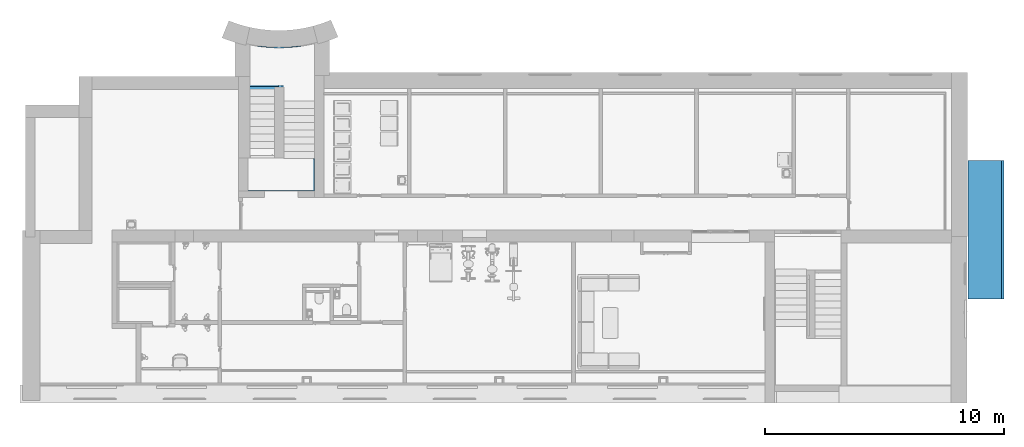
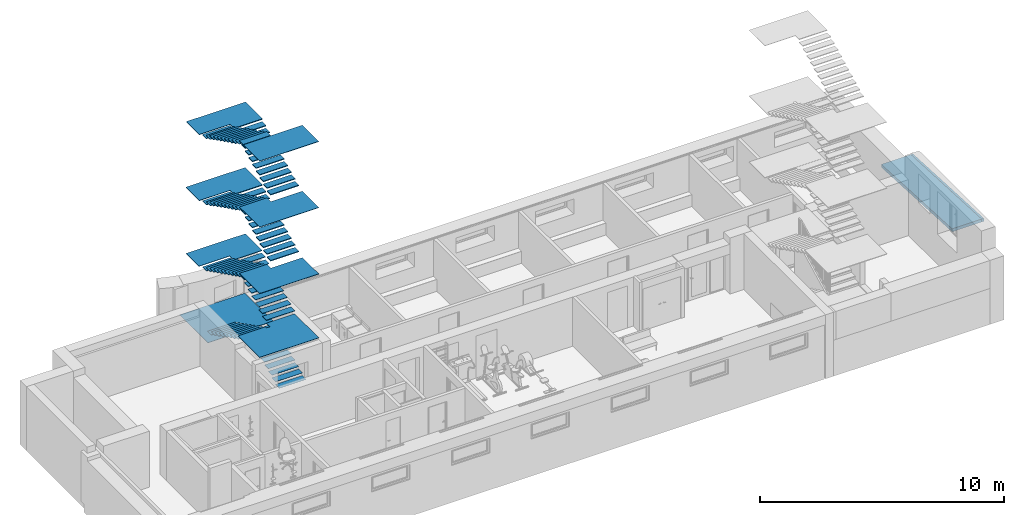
# One storey, part 8 of 23: 2 ramp flights, 1 stair, 3 elements without a shape of their own.
"""IFC2X3 building model written with IfcOpenShell, lengths in millimetres."""

from ifc_helpers import new_model, entity, si_unit, converted_unit, derived_unit, direction, frame, frame_2d, origin, origin_2d_with_axis, place, context, subcontext, project, spatial, polyline, rectangle, outline, extrude, element, aggregate, save


model = new_model("IFC2X3")

# Units and contexts
model_context = context("Model", 3, precision=0.01, world=origin(), true_north=direction((6.12303176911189e-17, 1.0)))
body_context = subcontext(model_context, "Body", "Model", "MODEL_VIEW")
ifc_project = project(units=[si_unit("LENGTHUNIT", "METRE", prefix="MILLI"), si_unit("AREAUNIT", "SQUARE_METRE"), si_unit("VOLUMEUNIT", "CUBIC_METRE"), converted_unit("PLANEANGLEUNIT", "DEGREE", entity("IfcRatioMeasure", 0.0174532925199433), si_unit("PLANEANGLEUNIT", "RADIAN"), dimensions=[0, 0, 0, 0, 0, 0, 0]), si_unit("MASSUNIT", "GRAM", prefix="KILO"), derived_unit("MASSDENSITYUNIT", [(si_unit("MASSUNIT", "GRAM", prefix="KILO"), 1), (si_unit("LENGTHUNIT", "METRE"), -3)]), si_unit("TIMEUNIT", "SECOND"), si_unit("FREQUENCYUNIT", "HERTZ"), si_unit("THERMODYNAMICTEMPERATUREUNIT", "DEGREE_CELSIUS"), derived_unit("THERMALTRANSMITTANCEUNIT", [(si_unit("MASSUNIT", "GRAM", prefix="KILO"), 1), (si_unit("THERMODYNAMICTEMPERATUREUNIT", "KELVIN"), -1), (si_unit("TIMEUNIT", "SECOND"), -3)]), derived_unit("VOLUMETRICFLOWRATEUNIT", [(si_unit("LENGTHUNIT", "METRE"), 3), (si_unit("TIMEUNIT", "SECOND"), -1)]), si_unit("ELECTRICCURRENTUNIT", "AMPERE"), si_unit("ELECTRICVOLTAGEUNIT", "VOLT"), si_unit("POWERUNIT", "WATT"), si_unit("FORCEUNIT", "NEWTON", prefix="KILO"), si_unit("ILLUMINANCEUNIT", "LUX"), si_unit("LUMINOUSFLUXUNIT", "LUMEN"), si_unit("LUMINOUSINTENSITYUNIT", "CANDELA"), derived_unit("USERDEFINED", [(si_unit("MASSUNIT", "GRAM", prefix="KILO"), -1), (si_unit("LENGTHUNIT", "METRE"), -2), (si_unit("TIMEUNIT", "SECOND"), 3), (si_unit("LUMINOUSFLUXUNIT", "LUMEN"), 1)]), derived_unit("LINEARVELOCITYUNIT", [(si_unit("LENGTHUNIT", "METRE"), 1), (si_unit("TIMEUNIT", "SECOND"), -1)]), si_unit("PRESSUREUNIT", "PASCAL"), derived_unit("USERDEFINED", [(si_unit("LENGTHUNIT", "METRE"), -2), (si_unit("MASSUNIT", "GRAM", prefix="KILO"), 1), (si_unit("TIMEUNIT", "SECOND"), -2)]), derived_unit("LINEARFORCEUNIT", [(si_unit("MASSUNIT", "GRAM", prefix="KILO"), 1), (si_unit("LENGTHUNIT", "METRE"), 1), (si_unit("TIMEUNIT", "SECOND"), -2), (si_unit("LENGTHUNIT", "METRE"), -1)]), derived_unit("PLANARFORCEUNIT", [(si_unit("MASSUNIT", "GRAM", prefix="KILO"), 1), (si_unit("LENGTHUNIT", "METRE"), 1), (si_unit("TIMEUNIT", "SECOND"), -2), (si_unit("LENGTHUNIT", "METRE"), -2)])], contexts=[model_context])

# Site, building, storey
site_placement = place(None, origin())
site = spatial("IfcSite", under=ifc_project, at=site_placement, Name="Default", CompositionType="ELEMENT")
building_placement = place(site_placement, origin())
building = spatial("IfcBuilding", under=site, at=building_placement, Name="SMA ARH", CompositionType="ELEMENT")
storey_placement = place(building_placement, frame((0.0, 0.0, -2800.0)))
storey = spatial("IfcBuildingStorey", under=building, at=storey_placement, Name="0 Sokkel", CompositionType="ELEMENT", Elevation=-2800.0)

# Stairs
stair_1_placement = place(storey_placement, origin())
stair_1 = element("IfcStair", 1, at=stair_1_placement, inside=storey, Name="Stairs 2:Stairs 2", ObjectType="Stairs 2:Stairs 2", ShapeType="NOTDEFINED")
stair_2_placement = place(stair_1_placement, origin())
stair_2 = element("IfcStair", 2, at=stair_2_placement, Name="Stairs 2:Stairs 2", ObjectType="Stairs 2:Stairs 2", ShapeType="NOTDEFINED", context=body_context, shape_type="SweptSolid", body=[
    extrude(outline(polyline([(65.0538238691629, -93.3380951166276), (93.3380951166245, -93.3380951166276), (107.480230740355, -79.1959594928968), (-118.793939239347, 147.078210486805), (-147.078210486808, 118.793939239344), (65.0538238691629, -93.3380951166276)])), frame((10260.0, 9964.47088682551, 9510.0), z_axis=(1.0, 0.0, 0.0), x_axis=(0.0, 0.707106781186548, 0.707106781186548)), (0.0, 0.0, 1.0), 1340.00000000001),
    extrude(outline(polyline([(65.0538238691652, -93.3380951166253), (93.3380951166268, -93.3380951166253), (107.480230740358, -79.1959594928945), (-118.793939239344, 147.078210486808), (-147.078210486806, 118.793939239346), (65.0538238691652, -93.3380951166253)])), frame((10260.0, 12961.4708868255, 11010.0), z_axis=(1.0, 0.0, 0.0), x_axis=(0.0, 0.707106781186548, 0.707106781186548)), (0.0, 0.0, 1.0), 1340.00000000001),
    extrude(outline(polyline([(65.0538238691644, -93.338095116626), (93.338095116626, -93.3380951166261), (107.480230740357, -79.1959594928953), (-118.793939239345, 147.078210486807), (-147.078210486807, 118.793939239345), (65.0538238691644, -93.338095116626)])), frame((10260.0, 12661.7708868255, 10860.0), z_axis=(1.0, 0.0, 0.0), x_axis=(0.0, 0.707106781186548, 0.707106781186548)), (0.0, 0.0, 1.0), 1340.00000000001),
    extrude(outline(polyline([(65.0538238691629, -93.3380951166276), (93.3380951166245, -93.3380951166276), (107.480230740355, -79.1959594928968), (-118.793939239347, 147.078210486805), (-147.078210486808, 118.793939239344), (65.0538238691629, -93.3380951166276)])), frame((10260.0, 12362.0708868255, 10710.0), z_axis=(1.0, 0.0, 0.0), x_axis=(0.0, 0.707106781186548, 0.707106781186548)), (0.0, 0.0, 1.0), 1340.00000000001),
    extrude(outline(polyline([(65.0538238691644, -93.338095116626), (93.338095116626, -93.3380951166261), (107.480230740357, -79.1959594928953), (-118.793939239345, 147.078210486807), (-147.078210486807, 118.793939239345), (65.0538238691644, -93.338095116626)])), frame((10260.0, 12062.3708868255, 10560.0), z_axis=(1.0, 0.0, 0.0), x_axis=(0.0, 0.707106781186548, 0.707106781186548)), (0.0, 0.0, 1.0), 1340.00000000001),
    extrude(outline(polyline([(65.0538238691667, -93.3380951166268), (93.3380951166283, -93.3380951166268), (107.480230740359, -79.195959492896), (-118.793939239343, 147.078210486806), (-147.078210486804, 118.793939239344), (65.0538238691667, -93.3380951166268)])), frame((10260.0, 11762.6708868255, 10410.0), z_axis=(1.0, 0.0, 0.0), x_axis=(0.0, 0.707106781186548, 0.707106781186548)), (0.0, 0.0, 1.0), 1340.00000000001),
    extrude(outline(polyline([(65.0538238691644, -93.338095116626), (93.338095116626, -93.3380951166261), (107.480230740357, -79.1959594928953), (-118.793939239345, 147.078210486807), (-147.078210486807, 118.793939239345), (65.0538238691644, -93.338095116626)])), frame((10260.0, 11462.9708868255, 10260.0), z_axis=(1.0, 0.0, 0.0), x_axis=(0.0, 0.707106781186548, 0.707106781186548)), (0.0, 0.0, 1.0), 1340.00000000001),
    extrude(outline(polyline([(65.0538238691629, -93.3380951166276), (93.3380951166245, -93.3380951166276), (107.480230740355, -79.1959594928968), (-118.793939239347, 147.078210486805), (-147.078210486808, 118.793939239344), (65.0538238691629, -93.3380951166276)])), frame((10260.0, 11163.2708868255, 10110.0), z_axis=(1.0, 0.0, 0.0), x_axis=(0.0, 0.707106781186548, 0.707106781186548)), (0.0, 0.0, 1.0), 1340.00000000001),
    extrude(outline(polyline([(65.053823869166, -93.3380951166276), (93.3380951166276, -93.3380951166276), (107.480230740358, -79.1959594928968), (-118.793939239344, 147.078210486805), (-147.078210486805, 118.793939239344), (65.053823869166, -93.3380951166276)])), frame((10260.0, 10863.5708868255, 9960.0), z_axis=(1.0, 0.0, 0.0), x_axis=(0.0, 0.707106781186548, 0.707106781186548)), (0.0, 0.0, 1.0), 1340.00000000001),
    extrude(outline(polyline([(65.0538238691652, -93.3380951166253), (93.3380951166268, -93.3380951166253), (107.480230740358, -79.1959594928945), (-118.793939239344, 147.078210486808), (-147.078210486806, 118.793939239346), (65.0538238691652, -93.3380951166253)])), frame((10260.0, 10563.8708868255, 9810.0), z_axis=(1.0, 0.0, 0.0), x_axis=(0.0, 0.707106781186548, 0.707106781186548)), (0.0, 0.0, 1.0), 1340.00000000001),
    extrude(outline(polyline([(65.0538238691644, -93.338095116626), (93.338095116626, -93.3380951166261), (107.480230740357, -79.1959594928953), (-118.793939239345, 147.078210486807), (-147.078210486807, 118.793939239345), (65.0538238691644, -93.338095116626)])), frame((10260.0, 10264.1708868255, 9660.0), z_axis=(1.0, 0.0, 0.0), x_axis=(0.0, 0.707106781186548, 0.707106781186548)), (0.0, 0.0, 1.0), 1340.00000000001),
    extrude(outline(polyline([(-193.135132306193, -20.0), (135.423421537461, -20.0), (135.423421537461, 0.0), (115.423421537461, 20.0), (-193.135132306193, 20.0), (-193.135132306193, -20.0)])), frame((8800.0, 12650.7291455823, 11162.0), z_axis=(1.0, 0.0, 0.0), x_axis=(0.0, -1.0, 0.0)), (0.0, 0.0, 1.0), 1309.99999999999),
    extrude(outline(polyline([(-188.0, -20.0), (132.0, -20.0), (132.0, 0.0), (112.0, 20.0), (-188.0, 20.0), (-188.0, -20.0)])), frame((8800.0, 9647.86427788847, 12680.0), z_axis=(1.0, 0.0, 0.0), x_axis=(0.0, -1.0, 0.0)), (0.0, 0.0, 1.0), 1309.99999999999),
    extrude(outline(polyline([(-188.0, -20.0), (132.0, -20.0), (132.0, 0.0), (112.0, 20.0), (-188.0, 20.0), (-188.0, -20.0)])), frame((8800.0, 12332.0, 11313.7999999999), z_axis=(1.0, 0.0, 0.0), x_axis=(0.0, -1.0, 0.0)), (0.0, 0.0, 1.0), 1309.99999999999),
    extrude(outline(polyline([(-188.0, -20.0), (132.0, -20.0), (132.0, 0.0), (112.0, 20.0), (-188.0, 20.0), (-188.0, -20.0)])), frame((8800.0, 12054.2642778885, 11465.5999999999), z_axis=(1.0, 0.0, 0.0), x_axis=(0.0, -1.0, 0.0)), (0.0, 0.0, 1.0), 1310.0),
    extrude(outline(polyline([(-20.0, -132.0), (0.0, -132.0), (20.0, -112.0), (20.0, 188.0), (-20.0, 188.0), (-20.0, -132.0)])), frame((8800.0, 11753.4642778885, 11617.3999999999), z_axis=(1.0, 0.0, 0.0), x_axis=(0.0, 0.0, -1.0)), (0.0, 0.0, 1.0), 1309.99999999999),
    extrude(outline(polyline([(-188.0, -20.0), (132.0, -20.0), (132.0, 0.0), (112.0, 20.0), (-188.0, 20.0), (-188.0, -20.0)])), frame((8800.0, 11452.6642778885, 11769.1999999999), z_axis=(1.0, 0.0, 0.0), x_axis=(0.0, -1.0, 0.0)), (0.0, 0.0, 1.0), 1309.99999999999),
    extrude(outline(polyline([(-188.0, -20.0), (132.0, -20.0), (132.0, 0.0), (112.0, 20.0), (-188.0, 20.0), (-188.0, -20.0)])), frame((8800.0, 11151.8642778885, 11921.0), z_axis=(1.0, 0.0, 0.0), x_axis=(0.0, -1.0, 0.0)), (0.0, 0.0, 1.0), 1309.99999999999),
    extrude(outline(polyline([(-188.0, -20.0), (132.0, -20.0), (132.0, 0.0), (112.0, 20.0), (-188.0, 20.0), (-188.0, -20.0)])), frame((8800.0, 10851.0642778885, 12072.7999999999), z_axis=(1.0, 0.0, 0.0), x_axis=(0.0, -1.0, 0.0)), (0.0, 0.0, 1.0), 1309.99999999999),
    extrude(outline(polyline([(-188.0, -26.0), (132.0, -26.0), (132.0, 4.0), (112.0, 24.0), (-188.0, 24.0), (-188.0, -26.0)])), frame((8800.0, 10550.2642778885, 12218.5999999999), z_axis=(1.0, 0.0, 0.0), x_axis=(0.0, -1.0, 0.0)), (0.0, 0.0, 1.0), 1310.0),
    extrude(outline(polyline([(-187.777730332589, -25.836068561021), (132.222269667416, -25.836068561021), (132.222269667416, 3.14981348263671), (111.11092133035, 24.2611618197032), (-187.777730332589, 24.2611618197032), (-187.777730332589, -25.836068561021)])), frame((8800.0, 10249.6865475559, 12370.5639314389), z_axis=(1.0, 0.0, 0.0), x_axis=(0.0, -1.0, 0.0)), (0.0, 0.0, 1.0), 1309.99999999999),
    extrude(outline(polyline([(-188.0, -20.0), (132.0, -20.0), (132.0, 0.0), (112.0, 20.0), (-188.0, 20.0), (-188.0, -20.0)])), frame((8800.0, 9948.66427788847, 12528.1999999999), z_axis=(1.0, 0.0, 0.0), x_axis=(0.0, -1.0, 0.0)), (0.0, 0.0, 1.0), 1309.99999999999),
    extrude(rectangle(XDim=1265.0, YDim=320.000000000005, at=frame_2d((2.1600499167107e-12, 0.0), x_axis=(1.0, 0.0))), frame((10967.5000000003, 9359.10550654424, 162.0), z_axis=(0.0, 0.0, 1.0), x_axis=(-1.0, 0.0, 0.0)), (0.0, 0.0, 1.0), 9.99999999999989),
    extrude(rectangle(XDim=1265.0, YDim=320.000000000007, at=frame_2d((-1.08002495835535e-12, 0.0), x_axis=(1.0, 0.0))), frame((10967.5000000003, 11756.7055065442, 1298.0), z_axis=(0.0, 0.0, 1.0), x_axis=(-1.0, 0.0, 0.0)), (0.0, 0.0, 1.0), 9.99999999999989),
    extrude(rectangle(XDim=1265.0, YDim=320.000000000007, at=frame_2d((-1.08002495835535e-12, 0.0), x_axis=(1.0, 0.0))), frame((10967.5000000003, 11157.3055065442, 1014.0), z_axis=(0.0, 0.0, 1.0), x_axis=(-1.0, 0.0, 0.0)), (0.0, 0.0, 1.0), 9.99999999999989),
    extrude(rectangle(XDim=1265.0, YDim=320.000000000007, at=frame_2d((-1.08002495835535e-12, 0.0), x_axis=(1.0, 0.0))), frame((10967.5000000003, 10857.6055065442, 872.0), z_axis=(0.0, 0.0, 1.0), x_axis=(-1.0, 0.0, 0.0)), (0.0, 0.0, 1.0), 9.99999999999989),
    extrude(rectangle(XDim=1265.0, YDim=320.000000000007, at=frame_2d((1.08002495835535e-12, 0.0), x_axis=(1.0, 0.0))), frame((10967.5000000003, 10258.2055065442, 588.0), z_axis=(0.0, 0.0, 1.0), x_axis=(-1.0, 0.0, 0.0)), (0.0, 0.0, 1.0), 9.99999999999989),
    extrude(rectangle(XDim=1265.0, YDim=320.000000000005, at=frame_2d((1.08002495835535e-12, -1.08002495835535e-12), x_axis=(1.0, 0.0))), frame((10967.5000000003, 9958.50550654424, 446.0), z_axis=(0.0, 0.0, 1.0), x_axis=(-1.0, 0.0, 0.0)), (0.0, 0.0, 1.0), 9.99999999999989),
    extrude(rectangle(XDim=1265.0, YDim=320.000000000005, at=frame_2d((1.08002495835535e-12, 1.08002495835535e-12), x_axis=(1.0, 0.0))), frame((10967.5000000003, 9658.80550654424, 304.0), z_axis=(0.0, 0.0, 1.0), x_axis=(-1.0, 0.0, 0.0)), (0.0, 0.0, 1.0), 9.99999999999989),
    extrude(rectangle(XDim=1265.0, YDim=320.000000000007, at=frame_2d((-1.08002495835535e-12, 2.1600499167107e-12), x_axis=(1.0, 0.0))), frame((10967.5000000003, 11457.0055065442, 1156.0), z_axis=(0.0, 0.0, 1.0), x_axis=(-1.0, 0.0, 0.0)), (0.0, 0.0, 1.0), 9.99999999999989),
    extrude(rectangle(XDim=1265.0, YDim=320.000000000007, at=origin_2d_with_axis()), frame((10967.5000000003, 10566.1686243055, 730.0), z_axis=(0.0, 0.0, 1.0), x_axis=(-1.0, 0.0, 0.0)), (0.0, 0.0, 1.0), 9.99999999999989),
    extrude(rectangle(XDim=3089.99999999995, YDim=2312.14027670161, at=frame_2d((-1.59161572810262e-12, 0.0), x_axis=(1.0, 0.0))), frame((10055.0, 13049.1502209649, 1430.0), z_axis=(0.0, 0.0, 1.0), x_axis=(-1.0, 0.0, 0.0)), (0.0, 0.0, 1.0), 19.9999999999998),
    extrude(rectangle(XDim=2800.0, YDim=1682.33282505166, at=frame_2d((1.70530256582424e-12, -1.08002495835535e-12), x_axis=(1.0, 0.0))), frame((10200.0, 8996.16641252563, 2864.0), z_axis=(0.0, 0.0, 1.0), x_axis=(-1.0, 0.0, 0.0)), (0.0, 0.0, 1.0), 19.9999999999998),
    extrude(rectangle(XDim=2800.0, YDim=1056.20772092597, at=frame_2d((1.59161572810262e-12, -1.08002495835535e-12), x_axis=(1.0, 0.0))), frame((10200.0, 13651.9681383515, 4410.0), z_axis=(0.0, 0.0, 1.0), x_axis=(-1.0, 0.0, 0.0)), (0.0, 0.0, 1.0), 19.9999999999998),
    extrude(rectangle(XDim=2800.0, YDim=1340.00000000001, at=frame_2d((-5.6843418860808e-13, 0.0), x_axis=(1.0, 0.0))), frame((10200.0, 8825.0, 6060.0), z_axis=(0.0, 0.0, 1.0), x_axis=(-1.0, 0.0, 0.0)), (0.0, 0.0, 1.0), 19.9999999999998),
    extrude(rectangle(XDim=2800.0, YDim=1104.99999999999, at=frame_2d((-4.54747350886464e-13, 1.08002495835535e-12), x_axis=(1.0, 0.0))), frame((10200.0, 13645.9708868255, 7710.0), z_axis=(0.0, 0.0, 1.0), x_axis=(-1.0, 0.0, 0.0)), (0.0, 0.0, 1.0), 19.9999999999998),
    extrude(rectangle(XDim=2800.0, YDim=1340.00000000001, at=frame_2d((1.59161572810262e-12, 0.0), x_axis=(1.0, 0.0))), frame((10200.0, 8825.0, 9380.0), z_axis=(0.0, 0.0, 1.0), x_axis=(-1.0, 0.0, 0.0)), (0.0, 0.0, 1.0), 19.9999999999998),
    extrude(rectangle(XDim=2800.0, YDim=1068.21653925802, at=frame_2d((1.59161572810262e-12, 0.0), x_axis=(1.0, 0.0))), frame((10200.0, 13627.5791564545, 11010.0), z_axis=(0.0, 0.0, 1.0), x_axis=(-1.0, 0.0, 0.0)), (0.0, 0.0, 1.0), 19.9999999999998),
    extrude(rectangle(XDim=2800.0, YDim=1340.00000000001, at=frame_2d((-5.6843418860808e-13, 0.0), x_axis=(1.0, 0.0))), frame((10200.0, 8825.86427788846, 12680.0), z_axis=(0.0, 0.0, 1.0), x_axis=(-1.0, 0.0, 0.0)), (0.0, 0.0, 1.0), 19.9999999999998),
    extrude(outline(polyline([(-193.135132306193, -20.0), (135.423421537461, -20.0), (135.423421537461, 0.0), (115.423421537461, 20.0), (-193.135132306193, 20.0), (-193.135132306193, -20.0)])), frame((8800.0, 12630.7291455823, 7862.0), z_axis=(1.0, 0.0, 0.0), x_axis=(0.0, -1.0, 0.0)), (0.0, 0.0, 1.0), 1309.99999999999),
    extrude(outline(polyline([(-188.0, -20.0), (132.0, -20.0), (132.0, 0.0), (112.0, 20.0), (-188.0, 20.0), (-188.0, -20.0)])), frame((8800.0, 9627.86427788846, 9380.0), z_axis=(1.0, 0.0, 0.0), x_axis=(0.0, -1.0, 0.0)), (0.0, 0.0, 1.0), 1309.99999999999),
    extrude(outline(polyline([(-188.0, -20.0), (132.0, -20.0), (132.0, 0.0), (112.0, 20.0), (-188.0, 20.0), (-188.0, -20.0)])), frame((8800.0, 12312.0, 8013.7999999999), z_axis=(1.0, 0.0, 0.0), x_axis=(0.0, -1.0, 0.0)), (0.0, 0.0, 1.0), 1309.99999999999),
    extrude(outline(polyline([(-188.0, -20.0), (132.0, -20.0), (132.0, 0.0), (112.0, 20.0), (-188.0, 20.0), (-188.0, -20.0)])), frame((8800.0, 12034.2642778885, 8165.5999999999), z_axis=(1.0, 0.0, 0.0), x_axis=(0.0, -1.0, 0.0)), (0.0, 0.0, 1.0), 1310.0),
    extrude(outline(polyline([(-20.0, -132.0), (0.0, -132.0), (20.0, -112.0), (20.0, 188.0), (-20.0, 188.0), (-20.0, -132.0)])), frame((8800.0, 11733.4642778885, 8317.39999999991), z_axis=(1.0, 0.0, 0.0), x_axis=(0.0, 0.0, -1.0)), (0.0, 0.0, 1.0), 1309.99999999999),
    extrude(outline(polyline([(-188.0, -20.0), (132.0, -20.0), (132.0, 0.0), (112.0, 20.0), (-188.0, 20.0), (-188.0, -20.0)])), frame((8800.0, 11432.6642778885, 8469.19999999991), z_axis=(1.0, 0.0, 0.0), x_axis=(0.0, -1.0, 0.0)), (0.0, 0.0, 1.0), 1309.99999999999),
    extrude(outline(polyline([(-188.0, -20.0), (132.0, -20.0), (132.0, 0.0), (112.0, 20.0), (-188.0, 20.0), (-188.0, -20.0)])), frame((8800.0, 11131.8642778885, 8621.0), z_axis=(1.0, 0.0, 0.0), x_axis=(0.0, -1.0, 0.0)), (0.0, 0.0, 1.0), 1309.99999999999),
    extrude(outline(polyline([(-188.0, -20.0), (132.0, -20.0), (132.0, 0.0), (112.0, 20.0), (-188.0, 20.0), (-188.0, -20.0)])), frame((8800.0, 10831.0642778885, 8772.79999999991), z_axis=(1.0, 0.0, 0.0), x_axis=(0.0, -1.0, 0.0)), (0.0, 0.0, 1.0), 1309.99999999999),
    extrude(outline(polyline([(-188.0, -26.0), (132.0, -26.0), (132.0, 4.0), (112.0, 24.0), (-188.0, 24.0), (-188.0, -26.0)])), frame((8800.0, 10530.2642778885, 8918.59999999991), z_axis=(1.0, 0.0, 0.0), x_axis=(0.0, -1.0, 0.0)), (0.0, 0.0, 1.0), 1310.0),
    extrude(outline(polyline([(-187.777730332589, -25.836068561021), (132.222269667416, -25.836068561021), (132.222269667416, 3.14981348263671), (111.11092133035, 24.2611618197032), (-187.777730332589, 24.2611618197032), (-187.777730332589, -25.836068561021)])), frame((8800.0, 10229.6865475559, 9070.56393143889), z_axis=(1.0, 0.0, 0.0), x_axis=(0.0, -1.0, 0.0)), (0.0, 0.0, 1.0), 1309.99999999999),
    extrude(outline(polyline([(-188.0, -20.0), (132.0, -20.0), (132.0, 0.0), (112.0, 20.0), (-188.0, 20.0), (-188.0, -20.0)])), frame((8800.0, 9928.66427788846, 9228.19999999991), z_axis=(1.0, 0.0, 0.0), x_axis=(0.0, -1.0, 0.0)), (0.0, 0.0, 1.0), 1309.99999999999),
    extrude(outline(polyline([(65.053823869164, -93.3380951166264), (93.3380951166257, -93.3380951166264), (107.480230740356, -79.1959594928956), (-118.793939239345, 147.078210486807), (-147.078210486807, 118.793939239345), (65.053823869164, -93.3380951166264)])), frame((10260.0, 9964.4708868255, 6210.0), z_axis=(1.0, 0.0, 0.0), x_axis=(0.0, 0.707106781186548, 0.707106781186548)), (0.0, 0.0, 1.0), 1340.00000000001),
    extrude(outline(polyline([(65.0538238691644, -93.338095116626), (93.338095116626, -93.3380951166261), (107.480230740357, -79.1959594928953), (-118.793939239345, 147.078210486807), (-147.078210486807, 118.793939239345), (65.0538238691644, -93.338095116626)])), frame((10260.0, 12961.4708868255, 7710.0), z_axis=(1.0, 0.0, 0.0), x_axis=(0.0, 0.707106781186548, 0.707106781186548)), (0.0, 0.0, 1.0), 1340.00000000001),
    extrude(outline(polyline([(65.0538238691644, -93.338095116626), (93.338095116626, -93.3380951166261), (107.480230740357, -79.1959594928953), (-118.793939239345, 147.078210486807), (-147.078210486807, 118.793939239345), (65.0538238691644, -93.338095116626)])), frame((10260.0, 12661.7708868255, 7560.0), z_axis=(1.0, 0.0, 0.0), x_axis=(0.0, 0.707106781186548, 0.707106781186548)), (0.0, 0.0, 1.0), 1340.00000000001),
    extrude(outline(polyline([(65.0538238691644, -93.338095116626), (93.338095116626, -93.3380951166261), (107.480230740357, -79.1959594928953), (-118.793939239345, 147.078210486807), (-147.078210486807, 118.793939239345), (65.0538238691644, -93.338095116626)])), frame((10260.0, 12362.0708868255, 7410.0), z_axis=(1.0, 0.0, 0.0), x_axis=(0.0, 0.707106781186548, 0.707106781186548)), (0.0, 0.0, 1.0), 1340.00000000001),
    extrude(outline(polyline([(65.053823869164, -93.3380951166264), (93.3380951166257, -93.3380951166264), (107.480230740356, -79.1959594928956), (-118.793939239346, 147.078210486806), (-147.078210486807, 118.793939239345), (65.053823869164, -93.3380951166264)])), frame((10260.0, 12062.3708868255, 7260.0), z_axis=(1.0, 0.0, 0.0), x_axis=(0.0, 0.707106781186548, 0.707106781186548)), (0.0, 0.0, 1.0), 1340.00000000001),
    extrude(outline(polyline([(65.0538238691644, -93.338095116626), (93.338095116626, -93.3380951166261), (107.480230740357, -79.1959594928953), (-118.793939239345, 147.078210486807), (-147.078210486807, 118.793939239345), (65.0538238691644, -93.338095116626)])), frame((10260.0, 11762.6708868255, 7110.0), z_axis=(1.0, 0.0, 0.0), x_axis=(0.0, 0.707106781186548, 0.707106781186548)), (0.0, 0.0, 1.0), 1340.00000000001),
    extrude(outline(polyline([(65.053823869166, -93.3380951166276), (93.3380951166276, -93.3380951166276), (107.480230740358, -79.1959594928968), (-118.793939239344, 147.078210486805), (-147.078210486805, 118.793939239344), (65.053823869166, -93.3380951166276)])), frame((10260.0, 11462.9708868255, 6960.0), z_axis=(1.0, 0.0, 0.0), x_axis=(0.0, 0.707106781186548, 0.707106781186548)), (0.0, 0.0, 1.0), 1340.00000000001),
    extrude(outline(polyline([(65.053823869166, -93.3380951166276), (93.3380951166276, -93.3380951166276), (107.480230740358, -79.1959594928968), (-118.793939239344, 147.078210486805), (-147.078210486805, 118.793939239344), (65.053823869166, -93.3380951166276)])), frame((10260.0, 11163.2708868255, 6810.0), z_axis=(1.0, 0.0, 0.0), x_axis=(0.0, 0.707106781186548, 0.707106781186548)), (0.0, 0.0, 1.0), 1340.00000000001),
    extrude(outline(polyline([(65.0538238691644, -93.338095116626), (93.338095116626, -93.3380951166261), (107.480230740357, -79.1959594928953), (-118.793939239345, 147.078210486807), (-147.078210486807, 118.793939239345), (65.0538238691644, -93.338095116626)])), frame((10260.0, 10863.5708868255, 6660.0), z_axis=(1.0, 0.0, 0.0), x_axis=(0.0, 0.707106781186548, 0.707106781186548)), (0.0, 0.0, 1.0), 1340.00000000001),
    extrude(outline(polyline([(65.053823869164, -93.3380951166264), (93.3380951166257, -93.3380951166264), (107.480230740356, -79.1959594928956), (-118.793939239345, 147.078210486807), (-147.078210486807, 118.793939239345), (65.053823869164, -93.3380951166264)])), frame((10260.0, 10563.8708868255, 6510.0), z_axis=(1.0, 0.0, 0.0), x_axis=(0.0, 0.707106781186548, 0.707106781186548)), (0.0, 0.0, 1.0), 1340.00000000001),
    extrude(outline(polyline([(65.053823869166, -93.3380951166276), (93.3380951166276, -93.3380951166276), (107.480230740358, -79.1959594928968), (-118.793939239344, 147.078210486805), (-147.078210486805, 118.793939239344), (65.053823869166, -93.3380951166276)])), frame((10260.0, 10264.1708868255, 6360.0), z_axis=(1.0, 0.0, 0.0), x_axis=(0.0, 0.707106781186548, 0.707106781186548)), (0.0, 0.0, 1.0), 1340.00000000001),
    extrude(outline(polyline([(-193.135132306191, -20.0), (135.423421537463, -20.0), (135.423421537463, 0.0), (115.423421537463, 20.0), (-193.135132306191, 20.0), (-193.135132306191, -20.0)])), frame((8800.0, 12630.7291455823, 4560.0), z_axis=(1.0, 0.0, 0.0), x_axis=(0.0, -1.0, 0.0)), (0.0, 0.0, 1.0), 1309.99999999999),
    extrude(outline(polyline([(-188.0, -20.0), (132.0, -20.0), (132.0, 0.0), (112.0, 20.0), (-188.0, 20.0), (-188.0, -20.0)])), frame((8800.0, 9623.68742608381, 6060.0), z_axis=(1.0, 0.0, 0.0), x_axis=(0.0, -1.0, 0.0)), (0.0, 0.0, 1.0), 1309.99999999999),
    extrude(outline(polyline([(-188.0, -20.0), (132.0, -20.0), (132.0, 0.0), (112.0, 20.0), (-188.0, 20.0), (-188.0, -20.0)])), frame((8800.0, 12334.4874260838, 4710.0), z_axis=(1.0, 0.0, 0.0), x_axis=(0.0, -1.0, 0.0)), (0.0, 0.0, 1.0), 1309.99999999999),
    extrude(outline(polyline([(-188.0, -20.0), (132.0, -20.0), (132.0, 0.0), (112.0, 20.0), (-188.0, 20.0), (-188.0, -20.0)])), frame((8800.0, 12033.2874260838, 4860.0), z_axis=(1.0, 0.0, 0.0), x_axis=(0.0, -1.0, 0.0)), (0.0, 0.0, 1.0), 1310.0),
    extrude(outline(polyline([(-20.0, -132.0), (0.0, -132.0), (20.0, -112.0), (20.0, 188.0), (-20.0, 188.0), (-20.0, -132.0)])), frame((8800.0, 11732.0874260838, 5010.0), z_axis=(1.0, 0.0, 0.0), x_axis=(0.0, 0.0, -1.0)), (0.0, 0.0, 1.0), 1309.99999999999),
    extrude(outline(polyline([(-188.0, -20.0), (132.0, -20.0), (132.0, 0.0), (112.0, 20.0), (-188.0, 20.0), (-188.0, -20.0)])), frame((8800.0, 11430.8874260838, 5160.0), z_axis=(1.0, 0.0, 0.0), x_axis=(0.0, -1.0, 0.0)), (0.0, 0.0, 1.0), 1309.99999999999),
    extrude(outline(polyline([(-188.0, -20.0), (132.0, -20.0), (132.0, 0.0), (112.0, 20.0), (-188.0, 20.0), (-188.0, -20.0)])), frame((8800.0, 11129.6874260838, 5310.0), z_axis=(1.0, 0.0, 0.0), x_axis=(0.0, -1.0, 0.0)), (0.0, 0.0, 1.0), 1309.99999999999),
    extrude(outline(polyline([(-188.0, -20.0), (132.0, -20.0), (132.0, 0.0), (112.0, 20.0), (-188.0, 20.0), (-188.0, -20.0)])), frame((8800.0, 10828.4874260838, 5460.0), z_axis=(1.0, 0.0, 0.0), x_axis=(0.0, -1.0, 0.0)), (0.0, 0.0, 1.0), 1309.99999999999),
    extrude(outline(polyline([(-188.0, -20.0), (132.0, -20.0), (132.0, 0.0), (112.0, 20.0), (-188.0, 20.0), (-188.0, -20.0)])), frame((8800.0, 10527.2874260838, 5610.0), z_axis=(1.0, 0.0, 0.0), x_axis=(0.0, -1.0, 0.0)), (0.0, 0.0, 1.0), 1310.0),
    extrude(outline(polyline([(-188.0, -20.0), (132.0, -20.0), (132.0, 0.0), (112.0, 20.0), (-188.0, 20.0), (-188.0, -20.0)])), frame((8800.0, 10226.0874260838, 5760.0), z_axis=(1.0, 0.0, 0.0), x_axis=(0.0, -1.0, 0.0)), (0.0, 0.0, 1.0), 1309.99999999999),
    extrude(outline(polyline([(-188.0, -20.0), (132.0, -20.0), (132.0, 0.0), (112.0, 20.0), (-188.0, 20.0), (-188.0, -20.0)])), frame((8800.0, 9924.88742608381, 5910.0), z_axis=(1.0, 0.0, 0.0), x_axis=(0.0, -1.0, 0.0)), (0.0, 0.0, 1.0), 1309.99999999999),
    extrude(rectangle(XDim=1340.00000000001, YDim=302.667174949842, at=frame_2d((1.08002495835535e-12, 2.17426077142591e-12), x_axis=(1.0, 0.0))), frame((10930.0, 9988.66641252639, 2864.0), z_axis=(0.0, 0.0, 1.0), x_axis=(-1.0, 0.0, 0.0)), (0.0, 0.0, 1.0), 19.9999999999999),
    extrude(rectangle(XDim=1340.00000000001, YDim=320.000000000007, at=frame_2d((0.0, 2.1600499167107e-12), x_axis=(1.0, 0.0))), frame((10930.0, 12963.8642778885, 4410.0), z_axis=(0.0, 0.0, 1.0), x_axis=(-1.0, 0.0, 0.0)), (0.0, 0.0, 1.0), 19.9999999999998),
    extrude(rectangle(XDim=1340.00000000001, YDim=320.000000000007, at=frame_2d((1.08002495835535e-12, 2.1600499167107e-12), x_axis=(1.0, 0.0))), frame((10930.0, 12084.5874260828, 3951.79999999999), z_axis=(0.0, 0.0, 1.0), x_axis=(-1.0, 0.0, 0.0)), (0.0, 0.0, 1.0), 20.0000000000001),
    extrude(rectangle(XDim=1340.00000000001, YDim=320.000000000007, at=frame_2d((1.08002495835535e-12, 0.0), x_axis=(1.0, 0.0))), frame((10930.0, 11784.8874260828, 3796.39999999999), z_axis=(0.0, 0.0, 1.0), x_axis=(-1.0, 0.0, 0.0)), (0.0, 0.0, 1.0), 20.0000000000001),
    extrude(rectangle(XDim=1340.00000000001, YDim=320.000000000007, at=frame_2d((-1.08002495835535e-12, 0.0), x_axis=(1.0, 0.0))), frame((10930.0, 11185.4874260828, 3485.6), z_axis=(0.0, 0.0, 1.0), x_axis=(-1.0, 0.0, 0.0)), (0.0, 0.0, 1.0), 20.0000000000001),
    extrude(rectangle(XDim=1340.00000000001, YDim=320.000000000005, at=frame_2d((-1.08002495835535e-12, 1.08002495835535e-12), x_axis=(1.0, 0.0))), frame((10930.0, 10885.7874260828, 3330.2), z_axis=(0.0, 0.0, 1.0), x_axis=(-1.0, 0.0, 0.0)), (0.0, 0.0, 1.0), 20.0),
    extrude(rectangle(XDim=1340.00000000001, YDim=320.000000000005, at=frame_2d((-1.08002495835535e-12, -1.08002495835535e-12), x_axis=(1.0, 0.0))), frame((10930.0, 10586.0874260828, 3174.8), z_axis=(0.0, 0.0, 1.0), x_axis=(-1.0, 0.0, 0.0)), (0.0, 0.0, 1.0), 19.9999999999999),
    extrude(rectangle(XDim=1340.00000000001, YDim=320.000000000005, at=frame_2d((0.0, 1.08002495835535e-12), x_axis=(1.0, 0.0))), frame((10930.0, 10286.3874260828, 3019.4), z_axis=(0.0, 0.0, 1.0), x_axis=(-1.0, 0.0, 0.0)), (0.0, 0.0, 1.0), 19.9999999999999),
    extrude(rectangle(XDim=1340.00000000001, YDim=320.000000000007, at=frame_2d((1.08002495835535e-12, 0.0), x_axis=(1.0, 0.0))), frame((10930.0, 12683.9874260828, 4262.59999999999), z_axis=(0.0, 0.0, 1.0), x_axis=(-1.0, 0.0, 0.0)), (0.0, 0.0, 1.0), 20.0000000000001),
    extrude(rectangle(XDim=1340.00000000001, YDim=320.000000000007, at=frame_2d((1.08002495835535e-12, 0.0), x_axis=(1.0, 0.0))), frame((10930.0, 12384.2874260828, 4107.19999999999), z_axis=(0.0, 0.0, 1.0), x_axis=(-1.0, 0.0, 0.0)), (0.0, 0.0, 1.0), 20.0000000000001),
    extrude(rectangle(XDim=1340.00000000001, YDim=320.000000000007, at=origin_2d_with_axis()), frame((10930.0, 11493.4505438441, 3641.0), z_axis=(0.0, 0.0, 1.0), x_axis=(-1.0, 0.0, 0.0)), (0.0, 0.0, 1.0), 20.0000000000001),
    extrude(rectangle(XDim=1309.99999999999, YDim=296.496018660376, at=frame_2d((5.6843418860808e-13, 1.09423581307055e-12), x_axis=(1.0, 0.0))), frame((9455.0, 12269.8320732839, 1589.6), z_axis=(0.0, 0.0, 1.0), x_axis=(-1.0, 0.0, 0.0)), (0.0, 0.0, 1.0), 20.0000000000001),
    extrude(rectangle(XDim=1309.99999999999, YDim=320.000000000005, at=frame_2d((5.6843418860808e-13, -1.08002495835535e-12), x_axis=(1.0, 0.0))), frame((9455.0, 9766.68742608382, 2864.0), z_axis=(0.0, 0.0, 1.0), x_axis=(-1.0, 0.0, 0.0)), (0.0, 0.0, 1.0), 19.9999999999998),
    extrude(rectangle(XDim=1309.99999999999, YDim=298.092656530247, at=frame_2d((5.6843418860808e-13, 0.0), x_axis=(1.0, 0.0))), frame((9455.0, 11956.5337543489, 1748.9), z_axis=(0.0, 0.0, 1.0), x_axis=(-1.0, 0.0, 0.0)), (0.0, 0.0, 1.0), 20.0000000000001),
    extrude(rectangle(XDim=1309.99999999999, YDim=299.399999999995, at=frame_2d((1.08002495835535e-12, 0.0), x_axis=(1.0, 0.0))), frame((9455.0, 11642.7874260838, 1908.2), z_axis=(0.0, 0.0, 1.0), x_axis=(-1.0, 0.0, 0.0)), (0.0, 0.0, 1.0), 20.0000000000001),
    extrude(rectangle(XDim=1309.99999999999, YDim=304.999999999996, at=frame_2d((0.0, 1.08002495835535e-12), x_axis=(1.0, 0.0))), frame((9455.0, 11331.1874260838, 2067.5), z_axis=(0.0, 0.0, 1.0), x_axis=(-1.0, 0.0, 0.0)), (0.0, 0.0, 1.0), 20.0000000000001),
    extrude(rectangle(XDim=1309.99999999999, YDim=304.999999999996, at=frame_2d((5.6843418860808e-13, 1.08002495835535e-12), x_axis=(1.0, 0.0))), frame((9455.0, 11016.7874260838, 2226.8), z_axis=(0.0, 0.0, 1.0), x_axis=(-1.0, 0.0, 0.0)), (0.0, 0.0, 1.0), 20.0000000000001),
    extrude(rectangle(XDim=1309.99999999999, YDim=309.15521819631, at=frame_2d((5.6843418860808e-13, 0.0), x_axis=(1.0, 0.0))), frame((9455.0, 10704.465035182, 2386.1), z_axis=(0.0, 0.0, 1.0), x_axis=(-1.0, 0.0, 0.0)), (0.0, 0.0, 1.0), 20.0000000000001),
    extrude(rectangle(XDim=1309.99999999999, YDim=309.15521819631, at=frame_2d((0.0, 2.1600499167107e-12), x_axis=(1.0, 0.0))), frame((9455.0, 10390.065035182, 2545.4), z_axis=(0.0, 0.0, 1.0), x_axis=(-1.0, 0.0, 0.0)), (0.0, 0.0, 1.0), 19.9999999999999),
    extrude(rectangle(XDim=1309.99999999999, YDim=309.15521819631, at=frame_2d((-1.08002495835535e-12, 0.0), x_axis=(1.0, 0.0))), frame((9455.0, 10075.665035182, 2704.7), z_axis=(0.0, 0.0, 1.0), x_axis=(-1.0, 0.0, 0.0)), (0.0, 0.0, 1.0), 20.0000000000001),
])
aggregate(stair_1, [stair_2])

# Ramp, ramp flight
ramp_1_placement = place(storey_placement, origin())
ramp_1 = element("IfcRamp", 3, at=ramp_1_placement, inside=storey, Name="Ramp:Ramp 1", ObjectType="Ramp:Ramp 1", ShapeType="NOTDEFINED")
ramp_flight_1_placement = place(ramp_1_placement, origin())
ramp_flight_1 = element("IfcRampFlight", 4, at=ramp_flight_1_placement, Name="Ramp:Ramp 1:1", ObjectType="Ramp:Ramp 1", context=body_context, shape_type="SweptSolid", body=[
    extrude(outline(polyline([(-220.093691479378, -2900.0), (-69.9063085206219, -2900.0), (220.093691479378, 2900.0), (69.9063085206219, 2900.0), (-220.093691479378, -2900.0)])), frame((38929.7673217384, 6534.41019964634, 1279.90630852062), z_axis=(1.0, 0.0, 0.0), x_axis=(0.0, 0.0, -1.0)), (0.0, 0.0, 1.0), 1500.00000000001),
])
aggregate(ramp_1, [ramp_flight_1])

ramp_2_placement = place(storey_placement, origin())
ramp_2 = element("IfcRamp", 5, at=ramp_2_placement, inside=storey, Name="Ramp:Ramp 1", ObjectType="Ramp:Ramp 1", ShapeType="NOTDEFINED")
ramp_flight_2_placement = place(ramp_2_placement, origin())
ramp_flight_2 = element("IfcRampFlight", 6, at=ramp_flight_2_placement, Name="Ramp:Ramp 1:1", ObjectType="Ramp:Ramp 1", context=body_context, shape_type="SweptSolid", body=[
    extrude(rectangle(XDim=5807.24547440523, YDim=100.000000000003, at=origin_2d_with_axis()), frame((40379.7673217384, 6534.41019964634, 1204.81261704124), z_axis=(0.0, 0.0499376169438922, 0.998752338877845), x_axis=(0.0, 0.998752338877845, -0.0499376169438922)), (-0.0499376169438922, 0.0, 0.998752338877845), 150.187382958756),
])
aggregate(ramp_2, [ramp_flight_2])

save(model, "model.ifc")
